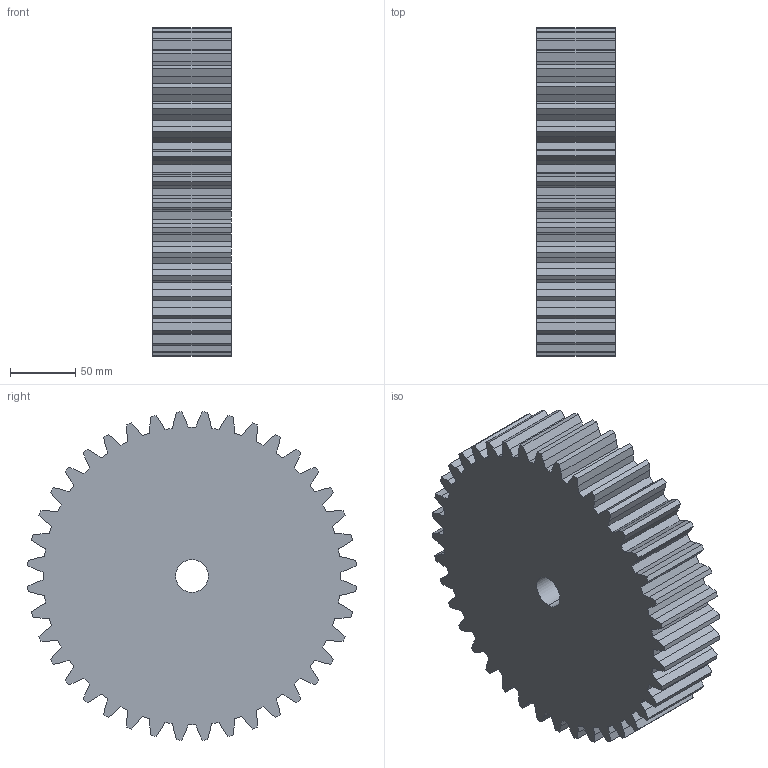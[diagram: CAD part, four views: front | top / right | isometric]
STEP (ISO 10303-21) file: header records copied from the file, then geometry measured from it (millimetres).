
FILE_DESCRIPTION (( 'STEP AP203' ), '1' );
FILE_NAME ('CM 34040.STEP', '2013-09-23T11:45:14', ( '' ), ( '' ), 'SwSTEP 2.0', 'SolidWorks 2010', '' );
FILE_SCHEMA (( 'CONFIG_CONTROL_DESIGN' ));
Length unit declared in the file: millimetre
Products named in the file (1): CM 34040
Bounding box: 60 x 251.51 x 251.51 mm (x, y, z)
Volume: 2658214.6 mm3; surface area: 178611.6 mm2
Topology: 1 solids, 1 shells, 244 faces, 726 edges, 484 vertices
Faces by surface type: plane 162, cylinder 82
Entity records: 8575 total; most frequent: CARTESIAN_POINT 2811, ORIENTED_EDGE 1452, DIRECTION 796, EDGE_CURVE 726, VERTEX_POINT 484, B_SPLINE_CURVE_WITH_KNOTS 452, AXIS2_PLACEMENT_3D 277, EDGE_LOOP 246
